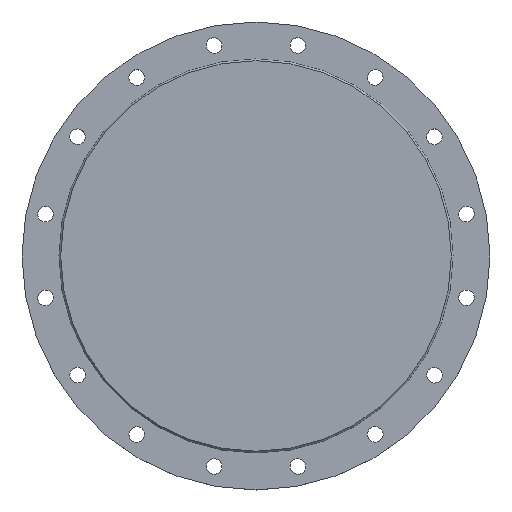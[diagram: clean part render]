
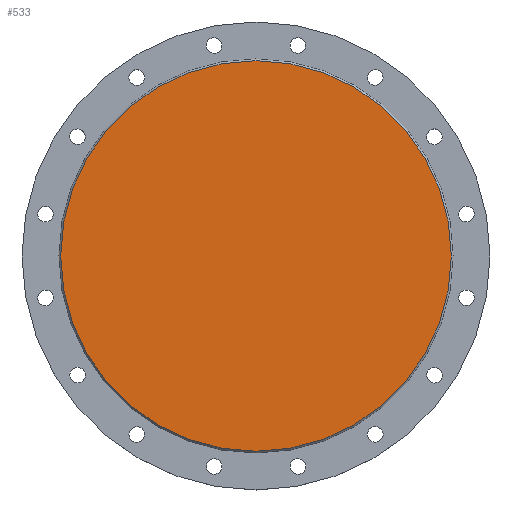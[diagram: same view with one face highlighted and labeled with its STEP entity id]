
A CAD part, top view. The second image highlights one B-rep face of the part: STEP entity #533.
In plain terms, the highlighted planar face has unit normal (0, 0, 1).
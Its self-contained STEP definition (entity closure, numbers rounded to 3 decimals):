
#49=PLANE('',#630);
#71=FACE_OUTER_BOUND('',#109,.T.);
#109=EDGE_LOOP('',(#461,#462));
#211=CIRCLE('',#620,338.);
#212=CIRCLE('',#621,338.);
#267=VERTEX_POINT('',#936);
#268=VERTEX_POINT('',#937);
#339=EDGE_CURVE('',#267,#268,#211,.T.);
#340=EDGE_CURVE('',#268,#267,#212,.T.);
#461=ORIENTED_EDGE('',*,*,#339,.T.);
#462=ORIENTED_EDGE('',*,*,#340,.T.);
#533=ADVANCED_FACE('',(#71),#49,.T.);
#620=AXIS2_PLACEMENT_3D('',#938,#780,#781);
#621=AXIS2_PLACEMENT_3D('',#939,#782,#783);
#630=AXIS2_PLACEMENT_3D('',#956,#802,#803);
#780=DIRECTION('center_axis',(0.,0.,1.));
#781=DIRECTION('ref_axis',(1.,0.,0.));
#782=DIRECTION('center_axis',(0.,0.,1.));
#783=DIRECTION('ref_axis',(1.,0.,0.));
#802=DIRECTION('center_axis',(0.,0.,1.));
#803=DIRECTION('ref_axis',(1.,0.,0.));
#936=CARTESIAN_POINT('',(338.,0.,0.));
#937=CARTESIAN_POINT('',(-338.,0.,0.));
#938=CARTESIAN_POINT('Origin',(0.,0.,0.));
#939=CARTESIAN_POINT('Origin',(0.,0.,0.));
#956=CARTESIAN_POINT('Origin',(0.,0.,0.));
